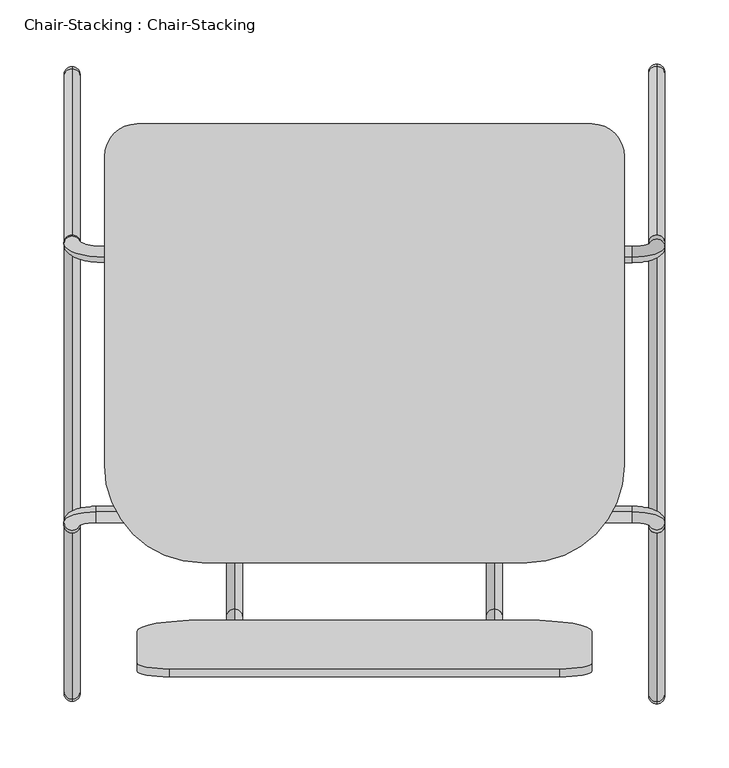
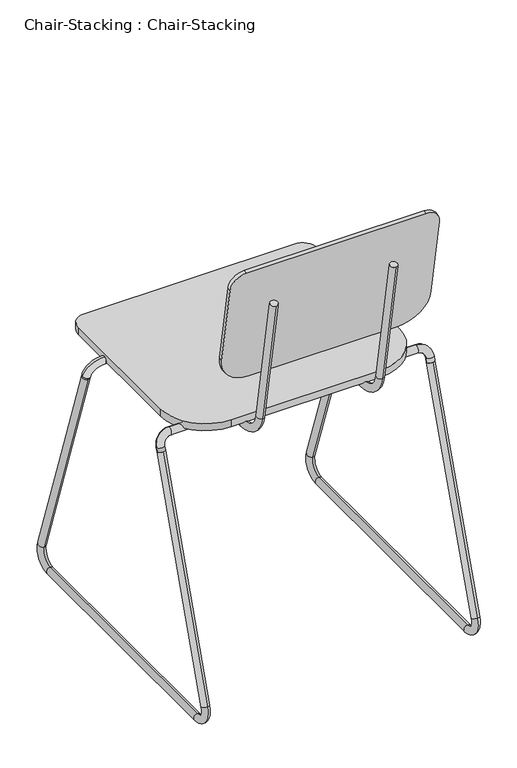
"""IFC4 building model written with IfcOpenShell, lengths in millimetres: furniture geometry, Chair-Stacking : Chair-Stacking."""

from ifc_helpers import new_model, si_unit, point, frame, frame_2d, origin, place, context, project, spatial, polyline, circle_curve, ellipse_curve, trimmed, segment, composite_curve, outline, extrude, source, transform, mapped, element, save
from ifc_brep_helpers import plane_surface, cylinder_surface, revolved_surface, advanced_brep


def chair_stacking_chair_stacking_74314eac(model_context):
    return source(origin(), model_context, "Body", "SolidModel", [
        advanced_brep(
        [(-280.6491803, 213.2656675, 431.8), (-280.6491803, 213.2656675, 444.5), (-280.6491803, -23.0277124, 431.8), (-280.6491803, -23.0277124, 444.5), (-280.6491803, -66.802417, 481.2313385), (-280.6491803, -79.3094755, 479.0260066), (-280.6491803, -119.2282049, 705.4163709), (-280.6491803, -106.7211464, 707.6217027)],
        [
            (0, 1, circle_curve(frame((-280.6491803, 213.2656675, 438.15), z_axis=(0.0, 1.0, 0.0), x_axis=(0.0, 0.0, 1.0)), 6.35)),
            (1, 0, circle_curve(frame((-280.6491803, 213.2656675, 438.15), z_axis=(0.0, 1.0, 0.0), x_axis=(0.0, 0.0, 1.0)), 6.35)),
            (0, 2),
            (2, 3, circle_curve(frame((-280.6491803, -23.0277124, 438.15), z_axis=(0.0, 1.0, 0.0), x_axis=(0.0, 0.0, 1.0)), 6.35)),
            (3, 1),
            (3, 2, circle_curve(frame((-280.6491803, -23.0277124, 438.15), z_axis=(0.0, 1.0, 0.0), x_axis=(0.0, 0.0, 1.0)), 6.35)),
            (4, 3, circle_curve(frame((-280.6491803, -23.0277124, 488.95), z_axis=(1.0, 0.0, 0.0), x_axis=(0.0, 0.0, -1.0)), 44.45)),
            (2, 5, circle_curve(frame((-280.6491803, -23.0277124, 488.95), z_axis=(-1.0, 0.0, 0.0), x_axis=(0.0, 0.0, -1.0)), 57.15)),
            (5, 4, circle_curve(frame((-280.6491803, -73.0559463, 480.1286726), z_axis=(0.0, 0.17364817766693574, -0.9848077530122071), x_axis=(0.0, 0.9848077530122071, 0.17364817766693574)), 6.35)),
            (4, 5, circle_curve(frame((-280.6491803, -73.0559463, 480.1286726), z_axis=(0.0, 0.17364817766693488, -0.9848077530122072), x_axis=(0.0, 0.9848077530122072, 0.17364817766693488)), 6.35)),
            (6, 7, circle_curve(frame((-280.6491803, -112.9746757, 706.5190368), z_axis=(0.0, -0.1736481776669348, 0.9848077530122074), x_axis=(0.0, 0.9848077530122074, 0.1736481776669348)), 6.35)),
            (7, 6, circle_curve(frame((-280.6491803, -112.9746757, 706.5190368), z_axis=(0.0, -0.1736481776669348, 0.9848077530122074), x_axis=(0.0, 0.9848077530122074, 0.1736481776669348)), 6.35)),
            (5, 6),
            (7, 4),
        ],
        [
            plane_surface(frame((-286.9991803, 213.2656675, 438.15), z_axis=(0.0, 1.0, 0.0), x_axis=(0.0, 0.0, -1.0))),
            cylinder_surface(frame((-280.6491803, 213.2656675, 438.15), z_axis=(0.0, 1.0, 0.0), x_axis=(0.0, 0.0, 1.0)), 6.35),
            revolved_surface(trimmed(ellipse_curve(frame((-280.6491803, -23.0277124, 438.15), z_axis=(0.0, 1.0, 0.0), x_axis=(0.0, 0.0, 1.0)), 6.35, 6.35), [point((-280.6491803, -23.0277124, 431.8))], [point((-280.6491803, -23.0277124, 444.5))], True, "CARTESIAN"), (-280.6491803, -23.0277124, 488.95), (-1.0, 0.0, 0.0)),
            revolved_surface(trimmed(ellipse_curve(frame((-280.6491803, -23.0277124, 438.15), z_axis=(0.0, 1.0, 0.0), x_axis=(0.0, 0.0, 1.0)), 6.35, 6.35), [point((-280.6491803, -23.0277124, 444.5))], [point((-280.6491803, -23.0277124, 431.8))], True, "CARTESIAN"), (-280.6491803, -23.0277124, 488.95), (-1.0, 0.0, 0.0)),
            plane_surface(frame((-280.6491803, -119.2282049, 705.4163709), z_axis=(0.0, -0.17364817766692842, 0.9848077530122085), x_axis=(1.0, 0.0, 0.0))),
            cylinder_surface(frame((-280.6491803, -73.0559463, 480.1286726), z_axis=(0.0, 0.1736481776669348, -0.9848077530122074), x_axis=(0.0, 0.9848077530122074, 0.1736481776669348)), 6.35),
        ],
        [
            (0, [[1, 2]]),
            (1, [[-1, 3, 4, 5]]),
            (1, [[-2, -5, 6, -3]]),
            (2, [[7, -4, 8, 9]]),
            (3, [[-8, -6, -7, 10]]),
            (4, [[11, 12]]),
            (5, [[-9, 13, -12, 14]]),
            (5, [[-10, -14, -11, -13]]),
        ],
    ),
        advanced_brep(
        [(-77.4491803, 213.2656675, 431.8), (-77.4491803, 213.2656675, 444.5), (-77.4491803, -23.0277124, 431.8), (-77.4491803, -23.0277124, 444.5), (-77.4491803, -66.802417, 481.2313385), (-77.4491803, -79.3094755, 479.0260066), (-77.4491803, -118.9339087, 703.7473341), (-77.4491803, -106.4268502, 705.9526659)],
        [
            (0, 1, circle_curve(frame((-77.4491803, 213.2656675, 438.15), z_axis=(0.0, 1.0, 0.0), x_axis=(0.0, 0.0, 1.0)), 6.35)),
            (1, 0, circle_curve(frame((-77.4491803, 213.2656675, 438.15), z_axis=(0.0, 1.0, 0.0), x_axis=(0.0, 0.0, 1.0)), 6.35)),
            (0, 2),
            (2, 3, circle_curve(frame((-77.4491803, -23.0277124, 438.15), z_axis=(0.0, 1.0, 0.0), x_axis=(0.0, 0.0, 1.0)), 6.35)),
            (3, 1),
            (3, 2, circle_curve(frame((-77.4491803, -23.0277124, 438.15), z_axis=(0.0, 1.0, 0.0), x_axis=(0.0, 0.0, 1.0)), 6.35)),
            (4, 3, circle_curve(frame((-77.4491803, -23.0277124, 488.95), z_axis=(1.0, 0.0, 0.0), x_axis=(0.0, 0.0, -1.0)), 44.45)),
            (2, 5, circle_curve(frame((-77.4491803, -23.0277124, 488.95), z_axis=(-1.0, 0.0, 0.0), x_axis=(0.0, 0.0, -1.0)), 57.15)),
            (5, 4, circle_curve(frame((-77.4491803, -73.0559463, 480.1286726), z_axis=(0.0, 0.1736481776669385, -0.9848077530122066), x_axis=(0.0, 0.9848077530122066, 0.1736481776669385)), 6.35)),
            (4, 5, circle_curve(frame((-77.4491803, -73.0559463, 480.1286726), z_axis=(0.0, 0.1736481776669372, -0.9848077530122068), x_axis=(0.0, 0.9848077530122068, 0.1736481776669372)), 6.35)),
            (6, 7, circle_curve(frame((-77.4491803, -112.6803794, 704.85), z_axis=(0.0, -0.17364817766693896, 0.9848077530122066), x_axis=(0.0, 0.9848077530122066, 0.17364817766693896)), 6.35)),
            (7, 6, circle_curve(frame((-77.4491803, -112.6803794, 704.85), z_axis=(0.0, -0.17364817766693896, 0.9848077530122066), x_axis=(0.0, 0.9848077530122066, 0.17364817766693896)), 6.35)),
            (5, 6),
            (7, 4),
        ],
        [
            plane_surface(frame((-83.7991803, 213.2656675, 438.15), z_axis=(0.0, 1.0, 0.0), x_axis=(0.0, 0.0, -1.0))),
            cylinder_surface(frame((-77.4491803, 213.2656675, 438.15), z_axis=(0.0, 1.0, 0.0), x_axis=(0.0, 0.0, 1.0)), 6.35),
            revolved_surface(trimmed(ellipse_curve(frame((-77.4491803, -23.0277124, 438.15), z_axis=(0.0, 1.0, 0.0), x_axis=(0.0, 0.0, 1.0)), 6.35, 6.35), [point((-77.4491803, -23.0277124, 431.8))], [point((-77.4491803, -23.0277124, 444.5))], True, "CARTESIAN"), (-77.4491803, -23.0277124, 488.95), (-1.0, 0.0, 0.0)),
            revolved_surface(trimmed(ellipse_curve(frame((-77.4491803, -23.0277124, 438.15), z_axis=(0.0, 1.0, 0.0), x_axis=(0.0, 0.0, 1.0)), 6.35, 6.35), [point((-77.4491803, -23.0277124, 444.5))], [point((-77.4491803, -23.0277124, 431.8))], True, "CARTESIAN"), (-77.4491803, -23.0277124, 488.95), (-1.0, 0.0, 0.0)),
            plane_surface(frame((-77.4491803, -118.9339087, 703.7473341), z_axis=(0.0, -0.1736481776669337, 0.9848077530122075), x_axis=(1.0, 0.0, 0.0))),
            cylinder_surface(frame((-77.4491803, -73.0559463, 480.1286726), z_axis=(0.0, 0.17364817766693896, -0.9848077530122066), x_axis=(0.0, 0.9848077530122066, 0.17364817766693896)), 6.35),
        ],
        [
            (0, [[1, 2]]),
            (1, [[-1, 3, 4, 5]]),
            (1, [[-2, -5, 6, -3]]),
            (2, [[7, -4, 8, 9]]),
            (3, [[-8, -6, -7, 10]]),
            (4, [[11, 12]]),
            (5, [[-9, 13, -12, 14]]),
            (5, [[-10, -14, -11, -13]]),
        ],
    ),
        extrude(outline(composite_curve([segment(trimmed(circle_curve(frame_2d((-1.2491803, 286.7314636)), 25.4), [point((-1.2491803, 312.1314636))], [point((24.1508197, 286.7314636))], False, "CARTESIAN"), True, "CONTINUOUS"), segment(polyline([(24.1508197, 286.7314636), (24.1508197, 45.4314636)]), True, "CONTINUOUS"), segment(trimmed(circle_curve(frame_2d((-52.0491803, 45.4314636)), 76.2), [point((24.1508197, 45.4314636))], [point((-52.0491803, -30.7685364))], False, "CARTESIAN"), True, "CONTINUOUS"), segment(polyline([(-52.0491803, -30.7685364), (-306.0491803, -30.7685364)]), True, "CONTINUOUS"), segment(trimmed(circle_curve(frame_2d((-306.0491803, 45.4314636)), 76.2), [point((-306.0491803, -30.7685364))], [point((-382.2491803, 45.4314636))], False, "CARTESIAN"), True, "CONTINUOUS"), segment(polyline([(-382.2491803, 45.4314636), (-382.2491803, 286.7314636)]), True, "CONTINUOUS"), segment(trimmed(circle_curve(frame_2d((-356.8491803, 286.7314636)), 25.4), [point((-382.2491803, 286.7314636))], [point((-356.8491803, 312.1314636))], False, "CARTESIAN"), True, "CONTINUOUS"), segment(polyline([(-356.8491803, 312.1314636), (-1.2491803, 312.1314636)]), True, "CONTINUOUS")], self_intersect=False)), frame((0.0, 0.0, 444.5), z_axis=(0.0, 0.0, 1.0), x_axis=(1.0, 0.0, 0.0)), (0.0, 0.0, 1.0), 12.7),
        extrude(outline(composite_curve([segment(polyline([(-304.8, 0.0), (0.0, 0.0)]), True, "CONTINUOUS"), segment(trimmed(circle_curve(frame_2d((0.0, -25.4)), 25.4), [point((0.0, 0.0))], [point((25.4, -25.4))], False, "CARTESIAN"), True, "CONTINUOUS"), segment(polyline([(25.4, -25.4), (25.4, -168.3013626)]), True, "CONTINUOUS"), segment(trimmed(circle_curve(frame_2d((-25.4, -168.3013626)), 50.8), [point((25.4, -168.3013626))], [point((-25.4, -219.1013626))], False, "CARTESIAN"), True, "CONTINUOUS"), segment(polyline([(-25.4, -219.1013626), (-279.4, -219.1013626)]), True, "CONTINUOUS"), segment(trimmed(circle_curve(frame_2d((-279.4, -168.3013626)), 50.8), [point((-279.4, -219.1013626))], [point((-330.2, -168.3013626))], False, "CARTESIAN"), True, "CONTINUOUS"), segment(polyline([(-330.2, -168.3013626), (-330.2, -25.4)]), True, "CONTINUOUS"), segment(trimmed(circle_curve(frame_2d((-304.8, -25.4)), 25.4), [point((-330.2, -25.4))], [point((-304.8, 0.0))], False, "CARTESIAN"), True, "CONTINUOUS")], self_intersect=False)), frame((-331.4491803, -119.9531376, 782.6640535), z_axis=(0.0, 0.9848077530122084, 0.17364817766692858), x_axis=(-1.0, 0.0, 0.0)), (0.0, 0.0, 1.0), 6.35),
        advanced_brep(
        [(55.9008197, 219.2327758, 419.1211728), (43.2008197, 219.2327758, 419.1211728), (55.9008197, 216.3017292, 427.6700586), (43.2008197, 216.3017292, 427.6700586), (30.5008197, 212.1828103, 439.6835721), (30.5008197, 208.0638914, 451.6970857), (-382.2491803, 208.0638914, 451.6970857), (-382.2491803, 212.1828103, 439.6835721), (-401.2991803, 218.3611887, 421.6633019), (-413.9991803, 218.3611887, 421.6633019), (-413.9991803, 219.2424531, 419.0929473), (-401.2991803, 219.2424531, 419.0929473)],
        [
            (0, 1, circle_curve(frame((49.5508197, 219.2327758, 419.1211728), z_axis=(0.0, 0.32432432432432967, -0.9459459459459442), x_axis=(-1.0, 0.0, 0.0)), 6.35)),
            (1, 0, circle_curve(frame((49.5508197, 219.2327758, 419.1211728), z_axis=(0.0, 0.32432432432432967, -0.9459459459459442), x_axis=(-1.0, 0.0, 0.0)), 6.35)),
            (0, 2),
            (2, 3, circle_curve(frame((49.5508197, 216.3017292, 427.6700586), z_axis=(0.0, 0.32432432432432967, -0.9459459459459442), x_axis=(-1.0, 0.0, 0.0)), 6.35)),
            (3, 1),
            (3, 2, circle_curve(frame((49.5508197, 216.3017292, 427.6700586), z_axis=(0.0, 0.32432432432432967, -0.9459459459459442), x_axis=(-1.0, 0.0, 0.0)), 6.35)),
            (4, 3, circle_curve(frame((30.5008197, 216.3017292, 427.6700586), z_axis=(0.0, 0.9459459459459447, 0.3243243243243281), x_axis=(1.0, 0.0, 0.0)), 12.7)),
            (2, 5, circle_curve(frame((30.5008197, 216.3017292, 427.6700586), z_axis=(0.0, -0.9459459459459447, -0.3243243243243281), x_axis=(1.0, 0.0, 0.0)), 25.4)),
            (5, 4, circle_curve(frame((30.5008197, 210.1233509, 445.6903289), z_axis=(1.0, 0.0, 0.0), x_axis=(0.0, 0.32432432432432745, -0.9459459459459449)), 6.35)),
            (4, 5, circle_curve(frame((30.5008197, 210.1233509, 445.6903289), z_axis=(1.0, 0.0, 0.0), x_axis=(0.0, 0.32432432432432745, -0.9459459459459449)), 6.35)),
            (5, 6),
            (6, 7, circle_curve(frame((-382.2491803, 210.1233509, 445.6903289), z_axis=(1.0, 0.0, 0.0), x_axis=(0.0, 0.32432432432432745, -0.9459459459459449)), 6.35)),
            (7, 4),
            (7, 6, circle_curve(frame((-382.2491803, 210.1233509, 445.6903289), z_axis=(1.0, 0.0, 0.0), x_axis=(0.0, 0.32432432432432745, -0.9459459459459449)), 6.35)),
            (8, 7, circle_curve(frame((-382.2491803, 218.3611887, 421.6633019), z_axis=(0.0, 0.9459459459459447, 0.3243243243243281), x_axis=(0.0, -0.3243243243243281, 0.9459459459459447)), 19.05)),
            (6, 9, circle_curve(frame((-382.2491803, 218.3611887, 421.6633019), z_axis=(0.0, -0.9459459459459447, -0.3243243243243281), x_axis=(0.0, -0.3243243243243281, 0.9459459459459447)), 31.75)),
            (9, 8, circle_curve(frame((-407.6491803, 218.3611887, 421.6633019), z_axis=(0.0, -0.324324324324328, 0.9459459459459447), x_axis=(1.0000000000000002, 0.0, 0.0)), 6.35)),
            (8, 9, circle_curve(frame((-407.6491803, 218.3611887, 421.6633019), z_axis=(0.0, -0.324324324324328, 0.9459459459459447), x_axis=(1.0000000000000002, 0.0, 0.0)), 6.35)),
            (10, 11, circle_curve(frame((-407.6491803, 219.2424531, 419.0929473), z_axis=(0.0, 0.32432432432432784, -0.9459459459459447), x_axis=(1.0, 0.0, 0.0)), 6.35)),
            (11, 10, circle_curve(frame((-407.6491803, 219.2424531, 419.0929473), z_axis=(0.0, 0.32432432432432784, -0.9459459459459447), x_axis=(1.0, 0.0, 0.0)), 6.35)),
            (9, 10),
            (11, 8),
        ],
        [
            plane_surface(frame((49.5508197, 213.226019, 417.0617133), z_axis=(0.0, 0.3243243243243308, -0.9459459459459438), x_axis=(1.0, 0.0, 0.0))),
            cylinder_surface(frame((49.5508197, 219.2327758, 419.1211728), z_axis=(0.0, 0.32432432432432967, -0.9459459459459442), x_axis=(-1.0, 0.0, 0.0)), 6.35),
            revolved_surface(trimmed(ellipse_curve(frame((49.5508197, 216.3017292, 427.6700586), z_axis=(0.0, 0.32432432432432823, -0.9459459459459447), x_axis=(-1.0, 0.0, 0.0)), 6.35, 6.35), [point((55.9008197, 216.3017292, 427.6700586))], [point((43.2008197, 216.3017292, 427.6700586))], True, "CARTESIAN"), (30.5008197, 216.3017292, 427.6700586), (0.0, -0.9459459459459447, -0.3243243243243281)),
            revolved_surface(trimmed(ellipse_curve(frame((49.5508197, 216.3017292, 427.6700586), z_axis=(0.0, 0.32432432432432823, -0.9459459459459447), x_axis=(-1.0, 0.0, 0.0)), 6.35, 6.35), [point((43.2008197, 216.3017292, 427.6700586))], [point((55.9008197, 216.3017292, 427.6700586))], True, "CARTESIAN"), (30.5008197, 216.3017292, 427.6700586), (0.0, -0.9459459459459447, -0.3243243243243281)),
            cylinder_surface(frame((30.5008197, 210.1233509, 445.6903289), z_axis=(1.0000000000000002, 0.0, 0.0), x_axis=(0.0, 0.32432432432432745, -0.9459459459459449)), 6.35),
            revolved_surface(trimmed(ellipse_curve(frame((-382.2491803, 210.1233509, 445.6903289), z_axis=(1.0000000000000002, 0.0, 0.0), x_axis=(0.0, 0.3243243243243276, -0.9459459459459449)), 6.35, 6.35), [point((-382.2491803, 208.0638914, 451.6970857))], [point((-382.2491803, 212.1828103, 439.6835721))], True, "CARTESIAN"), (-382.2491803, 218.3611887, 421.6633019), (0.0, -0.9459459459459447, -0.3243243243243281)),
            revolved_surface(trimmed(ellipse_curve(frame((-382.2491803, 210.1233509, 445.6903289), z_axis=(1.0000000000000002, 0.0, 0.0), x_axis=(0.0, 0.3243243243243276, -0.9459459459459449)), 6.35, 6.35), [point((-382.2491803, 212.1828103, 439.6835721))], [point((-382.2491803, 208.0638914, 451.6970857))], True, "CARTESIAN"), (-382.2491803, 218.3611887, 421.6633019), (0.0, -0.9459459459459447, -0.3243243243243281)),
            plane_surface(frame((-407.6491803, 225.2492099, 421.1524068), z_axis=(0.0, 0.32432432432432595, -0.9459459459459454), x_axis=(1.0, 0.0, 0.0))),
            cylinder_surface(frame((-407.6491803, 218.3611887, 421.6633019), z_axis=(0.0, -0.32432432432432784, 0.9459459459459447), x_axis=(1.0, 0.0, 0.0)), 6.35),
        ],
        [
            (0, [[1, 2]]),
            (1, [[-1, 3, 4, 5]]),
            (1, [[-2, -5, 6, -3]]),
            (2, [[7, -4, 8, 9]]),
            (3, [[-8, -6, -7, 10]]),
            (4, [[-9, 11, 12, 13]]),
            (4, [[-10, -13, 14, -11]]),
            (5, [[15, -12, 16, 17]]),
            (6, [[-16, -14, -15, 18]]),
            (7, [[19, 20]]),
            (8, [[-17, 21, -20, 22]]),
            (8, [[-18, -22, -19, -21]]),
        ],
    ),
        advanced_brep(
        [(55.9008197, -1.3812406, 419.0879461), (43.2008197, -1.3812406, 419.0879461), (55.9008197, 0.7944914, 425.4338312), (43.2008197, 0.7944914, 425.4338312), (30.5008197, 4.9134104, 437.4473447), (30.5008197, 9.0323293, 449.4608582), (-388.5991803, 9.0323293, 449.4608582), (-388.5991803, 4.9134104, 437.4473447), (-401.2991803, 0.7944914, 425.4338312), (-413.9991803, 0.7944914, 425.4338312), (-413.9991803, -1.3997864, 419.0338542), (-401.2991803, -1.3997864, 419.0338542)],
        [
            (0, 1, circle_curve(frame((49.5508197, -1.3812406, 419.0879461), z_axis=(0.0, -0.3243243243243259, -0.9459459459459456), x_axis=(-1.0, 0.0, 0.0)), 6.35)),
            (1, 0, circle_curve(frame((49.5508197, -1.3812406, 419.0879461), z_axis=(0.0, -0.3243243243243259, -0.9459459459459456), x_axis=(-1.0, 0.0, 0.0)), 6.35)),
            (0, 2),
            (2, 3, circle_curve(frame((49.5508197, 0.7944914, 425.4338312), z_axis=(0.0, -0.3243243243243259, -0.9459459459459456), x_axis=(-1.0, 0.0, 0.0)), 6.35)),
            (3, 1),
            (3, 2, circle_curve(frame((49.5508197, 0.7944914, 425.4338312), z_axis=(0.0, -0.3243243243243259, -0.9459459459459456), x_axis=(-1.0, 0.0, 0.0)), 6.35)),
            (4, 3, circle_curve(frame((30.5008197, 0.7944914, 425.4338312), z_axis=(0.0, 0.9459459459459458, -0.3243243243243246), x_axis=(1.0, 0.0, 0.0)), 12.7)),
            (2, 5, circle_curve(frame((30.5008197, 0.7944914, 425.4338312), z_axis=(0.0, -0.9459459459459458, 0.3243243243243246), x_axis=(1.0, 0.0, 0.0)), 25.4)),
            (5, 4, circle_curve(frame((30.5008197, 6.9728698, 443.4541014), z_axis=(1.0, 0.0, 0.0), x_axis=(0.0, -0.3243243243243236, -0.9459459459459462)), 6.35)),
            (4, 5, circle_curve(frame((30.5008197, 6.9728698, 443.4541014), z_axis=(1.0, 0.0, 0.0), x_axis=(0.0, -0.3243243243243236, -0.9459459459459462)), 6.35)),
            (5, 6),
            (6, 7, circle_curve(frame((-388.5991803, 6.9728698, 443.4541014), z_axis=(1.0, 0.0, 0.0), x_axis=(0.0, -0.3243243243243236, -0.9459459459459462)), 6.35)),
            (7, 4),
            (7, 6, circle_curve(frame((-388.5991803, 6.9728698, 443.4541014), z_axis=(1.0, 0.0, 0.0), x_axis=(0.0, -0.3243243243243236, -0.9459459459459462)), 6.35)),
            (8, 7, circle_curve(frame((-388.5991803, 0.7944914, 425.4338312), z_axis=(0.0, 0.9459459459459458, -0.3243243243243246), x_axis=(0.0, 0.3243243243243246, 0.9459459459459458)), 12.7)),
            (6, 9, circle_curve(frame((-388.5991803, 0.7944914, 425.4338312), z_axis=(0.0, -0.9459459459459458, 0.3243243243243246), x_axis=(0.0, 0.3243243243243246, 0.9459459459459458)), 25.4)),
            (9, 8, circle_curve(frame((-407.6491803, 0.7944914, 425.4338312), z_axis=(0.0, 0.3243243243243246, 0.9459459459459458), x_axis=(1.0, 0.0, 0.0)), 6.35)),
            (8, 9, circle_curve(frame((-407.6491803, 0.7944914, 425.4338312), z_axis=(0.0, 0.3243243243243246, 0.9459459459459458), x_axis=(1.0, 0.0, 0.0)), 6.35)),
            (10, 11, circle_curve(frame((-407.6491803, -1.3997864, 419.0338542), z_axis=(0.0, -0.32432432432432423, -0.9459459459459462), x_axis=(1.0, 0.0, 0.0)), 6.35)),
            (11, 10, circle_curve(frame((-407.6491803, -1.3997864, 419.0338542), z_axis=(0.0, -0.32432432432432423, -0.9459459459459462), x_axis=(1.0, 0.0, 0.0)), 6.35)),
            (9, 10),
            (11, 8),
        ],
        [
            plane_surface(frame((49.5508197, -7.3879973, 421.1474055), z_axis=(0.0, -0.32432432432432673, -0.9459459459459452), x_axis=(1.0, 0.0, 0.0))),
            cylinder_surface(frame((49.5508197, -1.3812406, 419.0879461), z_axis=(0.0, -0.32432432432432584, -0.9459459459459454), x_axis=(-1.0, 0.0, 0.0)), 6.35),
            revolved_surface(trimmed(ellipse_curve(frame((49.5508197, 0.7944914, 425.4338312), z_axis=(0.0, -0.3243243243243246, -0.9459459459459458), x_axis=(-1.0, 0.0, 0.0)), 6.35, 6.35), [point((55.9008197, 0.7944914, 425.4338312))], [point((43.2008197, 0.7944914, 425.4338312))], True, "CARTESIAN"), (30.5008197, 0.7944914, 425.4338312), (0.0, -0.9459459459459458, 0.3243243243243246)),
            revolved_surface(trimmed(ellipse_curve(frame((49.5508197, 0.7944914, 425.4338312), z_axis=(0.0, -0.3243243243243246, -0.9459459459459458), x_axis=(-1.0, 0.0, 0.0)), 6.35, 6.35), [point((43.2008197, 0.7944914, 425.4338312))], [point((55.9008197, 0.7944914, 425.4338312))], True, "CARTESIAN"), (30.5008197, 0.7944914, 425.4338312), (0.0, -0.9459459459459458, 0.3243243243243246)),
            cylinder_surface(frame((30.5008197, 6.9728698, 443.4541014), z_axis=(1.0, 0.0, 0.0), x_axis=(0.0, -0.3243243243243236, -0.9459459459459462)), 6.35),
            revolved_surface(trimmed(ellipse_curve(frame((-388.5991803, 6.9728698, 443.4541014), z_axis=(1.0, 0.0, 0.0), x_axis=(0.0, -0.3243243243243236, -0.9459459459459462)), 6.35, 6.35), [point((-388.5991803, 9.0323293, 449.4608582))], [point((-388.5991803, 4.9134104, 437.4473447))], True, "CARTESIAN"), (-388.5991803, 0.7944914, 425.4338312), (0.0, -0.9459459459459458, 0.3243243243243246)),
            revolved_surface(trimmed(ellipse_curve(frame((-388.5991803, 6.9728698, 443.4541014), z_axis=(1.0, 0.0, 0.0), x_axis=(0.0, -0.3243243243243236, -0.9459459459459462)), 6.35, 6.35), [point((-388.5991803, 4.9134104, 437.4473447))], [point((-388.5991803, 9.0323293, 449.4608582))], True, "CARTESIAN"), (-388.5991803, 0.7944914, 425.4338312), (0.0, -0.9459459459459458, 0.3243243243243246)),
            plane_surface(frame((-407.6491803, 4.6069704, 416.9743947), z_axis=(0.0, -0.32432432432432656, -0.9459459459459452), x_axis=(1.0, 0.0, 0.0))),
            cylinder_surface(frame((-407.6491803, 0.7944914, 425.4338312), z_axis=(0.0, 0.3243243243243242, 0.9459459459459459), x_axis=(1.0, 0.0, 0.0)), 6.35),
        ],
        [
            (0, [[1, 2]]),
            (1, [[-1, 3, 4, 5]]),
            (1, [[-2, -5, 6, -3]]),
            (2, [[7, -4, 8, 9]]),
            (3, [[-8, -6, -7, 10]]),
            (4, [[-9, 11, 12, 13]]),
            (4, [[-10, -13, 14, -11]]),
            (5, [[15, -12, 16, 17]]),
            (6, [[-16, -14, -15, 18]]),
            (7, [[19, 20]]),
            (8, [[-17, 21, -20, 22]]),
            (8, [[-18, -22, -19, -21]]),
        ],
    ),
        advanced_brep(
        [(-407.6491803, 225.2492099, 421.1524068), (-407.6491803, 213.2356963, 417.0334879), (-407.6491803, 355.2281045, 42.0472973), (-407.6491803, 343.214591, 37.9283784), (-407.6491803, 325.1943208, 12.7), (-407.6491803, 325.1943208, 0.0), (-407.6491803, -107.3313935, 0.0), (-407.6491803, -107.3313935, 12.7), (-407.6491803, -125.3516638, 37.9283784), (-407.6491803, -137.3651773, 42.0472973), (-407.6491803, -7.4065431, 421.0933136), (-407.6491803, 4.6069704, 416.9743947)],
        [
            (0, 1, circle_curve(frame((-407.6491803, 219.2424531, 419.0929473), z_axis=(0.0, -0.3243243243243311, 0.9459459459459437), x_axis=(0.0, -0.9459459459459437, -0.3243243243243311)), 6.35)),
            (1, 0, circle_curve(frame((-407.6491803, 219.2424531, 419.0929473), z_axis=(0.0, -0.3243243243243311, 0.9459459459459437), x_axis=(0.0, -0.9459459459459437, -0.3243243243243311)), 6.35)),
            (0, 2),
            (2, 3, circle_curve(frame((-407.6491803, 349.2213478, 39.9878378), z_axis=(0.0, -0.3243243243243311, 0.9459459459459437), x_axis=(0.0, -0.9459459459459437, -0.3243243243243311)), 6.35)),
            (3, 1),
            (3, 2, circle_curve(frame((-407.6491803, 349.2213478, 39.9878378), z_axis=(0.0, -0.3243243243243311, 0.9459459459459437), x_axis=(0.0, -0.9459459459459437, -0.3243243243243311)), 6.35)),
            (4, 3, circle_curve(frame((-407.6491803, 325.1943208, 31.75), z_axis=(1.0, 0.0, 0.0), x_axis=(0.0, 0.9459459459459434, 0.3243243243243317)), 19.05)),
            (2, 5, circle_curve(frame((-407.6491803, 325.1943208, 31.75), z_axis=(-1.0, 0.0, 0.0), x_axis=(0.0, 0.9459459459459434, 0.3243243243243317)), 31.75)),
            (5, 4, circle_curve(frame((-407.6491803, 325.1943208, 6.35), z_axis=(0.0, 1.0, 0.0), x_axis=(0.0, 0.0, 1.0)), 6.35)),
            (4, 5, circle_curve(frame((-407.6491803, 325.1943208, 6.35), z_axis=(0.0, 0.9999999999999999, 0.0), x_axis=(0.0, 0.0, 0.9999999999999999)), 6.35)),
            (5, 6),
            (6, 7, circle_curve(frame((-407.6491803, -107.3313935, 6.35), z_axis=(0.0, 1.0, 0.0), x_axis=(0.0, 0.0, 1.0)), 6.35)),
            (7, 4),
            (7, 6, circle_curve(frame((-407.6491803, -107.3313935, 6.35), z_axis=(0.0, 1.0, 0.0), x_axis=(0.0, 0.0, 1.0)), 6.35)),
            (8, 7, circle_curve(frame((-407.6491803, -107.3313935, 31.75), z_axis=(1.0, 0.0, 0.0), x_axis=(0.0, 0.0, -1.0)), 19.05)),
            (6, 9, circle_curve(frame((-407.6491803, -107.3313935, 31.75), z_axis=(-1.0, 0.0, 0.0), x_axis=(0.0, 0.0, -1.0)), 31.75)),
            (9, 8, circle_curve(frame((-407.6491803, -131.3584206, 39.9878378), z_axis=(0.0, -0.32432432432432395, -0.945945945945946), x_axis=(0.0, 0.945945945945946, -0.32432432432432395)), 6.35)),
            (8, 9, circle_curve(frame((-407.6491803, -131.3584206, 39.9878378), z_axis=(0.0, -0.3243243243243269, -0.945945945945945), x_axis=(0.0, 0.945945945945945, -0.3243243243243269)), 6.35)),
            (10, 11, circle_curve(frame((-407.6491803, -1.3997864, 419.0338542), z_axis=(0.0, 0.3243243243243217, 0.9459459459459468), x_axis=(0.0, 0.9459459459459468, -0.3243243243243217)), 6.35)),
            (11, 10, circle_curve(frame((-407.6491803, -1.3997864, 419.0338542), z_axis=(0.0, 0.3243243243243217, 0.9459459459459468), x_axis=(0.0, 0.9459459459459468, -0.3243243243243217)), 6.35)),
            (9, 10),
            (11, 8),
        ],
        [
            plane_surface(frame((-407.6491803, 225.2492099, 421.1524068), z_axis=(0.0, -0.32432432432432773, 0.9459459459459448), x_axis=(1.0, 0.0, 0.0))),
            cylinder_surface(frame((-407.6491803, 219.2424531, 419.0929473), z_axis=(0.0, -0.3243243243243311, 0.9459459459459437), x_axis=(0.0, -0.9459459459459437, -0.3243243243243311)), 6.35),
            revolved_surface(trimmed(ellipse_curve(frame((-407.6491803, 349.2213478, 39.9878378), z_axis=(0.0, -0.3243243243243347, 0.9459459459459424), x_axis=(0.0, -0.9459459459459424, -0.3243243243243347)), 6.35, 6.35), [point((-407.6491803, 355.2281045, 42.0472973))], [point((-407.6491803, 343.214591, 37.9283784))], True, "CARTESIAN"), (-407.6491803, 325.1943208, 31.75), (-1.0, 0.0, 0.0)),
            revolved_surface(trimmed(ellipse_curve(frame((-407.6491803, 349.2213478, 39.9878378), z_axis=(0.0, -0.3243243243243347, 0.9459459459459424), x_axis=(0.0, -0.9459459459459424, -0.3243243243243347)), 6.35, 6.35), [point((-407.6491803, 343.214591, 37.9283784))], [point((-407.6491803, 355.2281045, 42.0472973))], True, "CARTESIAN"), (-407.6491803, 325.1943208, 31.75), (-1.0, 0.0, 0.0)),
            cylinder_surface(frame((-407.6491803, 325.1943208, 6.35), z_axis=(0.0, 1.0, 0.0), x_axis=(0.0, 0.0, 1.0)), 6.35),
            revolved_surface(trimmed(ellipse_curve(frame((-407.6491803, -107.3313935, 6.35), z_axis=(0.0, 1.0, 0.0), x_axis=(0.0, 0.0, 1.0)), 6.35, 6.35), [point((-407.6491803, -107.3313935, 0.0))], [point((-407.6491803, -107.3313935, 12.7))], True, "CARTESIAN"), (-407.6491803, -107.3313935, 31.75), (-1.0, 0.0, 0.0)),
            revolved_surface(trimmed(ellipse_curve(frame((-407.6491803, -107.3313935, 6.35), z_axis=(0.0, 1.0, 0.0), x_axis=(0.0, 0.0, 1.0)), 6.35, 6.35), [point((-407.6491803, -107.3313935, 12.7))], [point((-407.6491803, -107.3313935, 0.0))], True, "CARTESIAN"), (-407.6491803, -107.3313935, 31.75), (-1.0, 0.0, 0.0)),
            plane_surface(frame((-407.6491803, -7.4065431, 421.0933136), z_axis=(0.0, 0.324324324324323, 0.9459459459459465), x_axis=(1.0, 0.0, 0.0))),
            cylinder_surface(frame((-407.6491803, -131.3584206, 39.9878378), z_axis=(0.0, -0.3243243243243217, -0.9459459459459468), x_axis=(0.0, 0.9459459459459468, -0.3243243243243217)), 6.35),
        ],
        [
            (0, [[1, 2]]),
            (1, [[-1, 3, 4, 5]]),
            (1, [[-2, -5, 6, -3]]),
            (2, [[7, -4, 8, 9]]),
            (3, [[-8, -6, -7, 10]]),
            (4, [[-9, 11, 12, 13]]),
            (4, [[-10, -13, 14, -11]]),
            (5, [[15, -12, 16, 17]]),
            (6, [[-16, -14, -15, 18]]),
            (7, [[19, 20]]),
            (8, [[-17, 21, -20, 22]]),
            (8, [[-18, -22, -19, -21]]),
        ],
    ),
        advanced_brep(
        [(49.5508197, 225.2597598, 421.1875673), (49.5508197, 213.2656675, 417.0124327), (49.5508197, 357.1892841, 42.1878365), (49.5508197, 345.1951918, 38.0127019), (49.5508197, 327.2040533, 12.7), (49.5508197, 327.2040533, 0.0), (49.5508197, -109.3411268, 0.0), (49.5508197, -109.3411268, 12.7), (49.5508197, -127.3337908, 38.0083179), (49.5508197, -139.3289001, 42.1805298), (49.5508197, -7.5008737, 421.186106), (49.5508197, 4.4942357, 417.013894)],
        [
            (0, 1, circle_curve(frame((49.5508197, 219.2627136, 419.1), z_axis=(0.0, -0.3287507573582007, 0.9444167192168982), x_axis=(0.0, -0.9444167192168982, -0.3287507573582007)), 6.35)),
            (1, 0, circle_curve(frame((49.5508197, 219.2627136, 419.1), z_axis=(0.0, -0.3287507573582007, 0.9444167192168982), x_axis=(0.0, -0.9444167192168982, -0.3287507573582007)), 6.35)),
            (0, 2),
            (2, 3, circle_curve(frame((49.5508197, 351.1922379, 40.1002692), z_axis=(0.0, -0.3287507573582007, 0.9444167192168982), x_axis=(0.0, -0.9444167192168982, -0.3287507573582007)), 6.35)),
            (3, 1),
            (3, 2, circle_curve(frame((49.5508197, 351.1922379, 40.1002692), z_axis=(0.0, -0.3287507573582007, 0.9444167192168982), x_axis=(0.0, -0.9444167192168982, -0.3287507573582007)), 6.35)),
            (4, 3, circle_curve(frame((49.5508197, 327.2040533, 31.75), z_axis=(1.0, 0.0, 0.0), x_axis=(0.0, 0.9444167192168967, 0.3287507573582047)), 19.05)),
            (2, 5, circle_curve(frame((49.5508197, 327.2040533, 31.75), z_axis=(-1.0, 0.0, 0.0), x_axis=(0.0, 0.9444167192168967, 0.3287507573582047)), 31.75)),
            (5, 4, circle_curve(frame((49.5508197, 327.2040533, 6.35), z_axis=(0.0, 1.0, 0.0), x_axis=(0.0, 0.0, 1.0)), 6.35)),
            (4, 5, circle_curve(frame((49.5508197, 327.2040533, 6.35), z_axis=(0.0, 1.0, 0.0), x_axis=(0.0, 0.0, 1.0)), 6.35)),
            (5, 6),
            (6, 7, circle_curve(frame((49.5508197, -109.3411268, 6.35), z_axis=(0.0, 1.0, 0.0), x_axis=(0.0, 0.0, 1.0)), 6.35)),
            (7, 4),
            (7, 6, circle_curve(frame((49.5508197, -109.3411268, 6.35), z_axis=(0.0, 1.0, 0.0), x_axis=(0.0, 0.0, 1.0)), 6.35)),
            (8, 7, circle_curve(frame((49.5508197, -109.3411268, 31.75), z_axis=(1.0, 0.0, 0.0), x_axis=(0.0, 0.0, -1.0)), 19.05)),
            (6, 9, circle_curve(frame((49.5508197, -109.3411268, 31.75), z_axis=(-1.0, 0.0, 0.0), x_axis=(0.0, 0.0, -1.0)), 31.75)),
            (9, 8, circle_curve(frame((49.5508197, -133.3313455, 40.0944239), z_axis=(0.0, -0.3285206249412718, -0.9444967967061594), x_axis=(0.0, 0.9444967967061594, -0.3285206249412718)), 6.35)),
            (8, 9, circle_curve(frame((49.5508197, -133.3313455, 40.0944239), z_axis=(0.0, -0.328520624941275, -0.9444967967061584), x_axis=(0.0, 0.9444967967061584, -0.328520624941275)), 6.35)),
            (10, 11, circle_curve(frame((49.5508197, -1.503319, 419.1), z_axis=(0.0, 0.3285206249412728, 0.9444967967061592), x_axis=(0.0, 0.9444967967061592, -0.3285206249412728)), 6.35)),
            (11, 10, circle_curve(frame((49.5508197, -1.503319, 419.1), z_axis=(0.0, 0.3285206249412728, 0.9444967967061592), x_axis=(0.0, 0.9444967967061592, -0.3285206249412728)), 6.35)),
            (9, 10),
            (11, 8),
        ],
        [
            plane_surface(frame((49.5508197, 225.2597598, 421.1875673), z_axis=(0.0, -0.3287507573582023, 0.9444167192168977), x_axis=(1.0, 0.0, 0.0))),
            cylinder_surface(frame((49.5508197, 219.2627136, 419.1), z_axis=(0.0, -0.3287507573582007, 0.9444167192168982), x_axis=(0.0, -0.9444167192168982, -0.3287507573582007)), 6.35),
            revolved_surface(trimmed(ellipse_curve(frame((49.5508197, 351.1922379, 40.1002692), z_axis=(0.0, -0.32875075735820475, 0.9444167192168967), x_axis=(0.0, -0.9444167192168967, -0.32875075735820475)), 6.35, 6.35), [point((49.5508197, 357.1892841, 42.1878365))], [point((49.5508197, 345.1951918, 38.0127019))], True, "CARTESIAN"), (49.5508197, 327.2040533, 31.75), (-1.0, 0.0, 0.0)),
            revolved_surface(trimmed(ellipse_curve(frame((49.5508197, 351.1922379, 40.1002692), z_axis=(0.0, -0.32875075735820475, 0.9444167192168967), x_axis=(0.0, -0.9444167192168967, -0.32875075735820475)), 6.35, 6.35), [point((49.5508197, 345.1951918, 38.0127019))], [point((49.5508197, 357.1892841, 42.1878365))], True, "CARTESIAN"), (49.5508197, 327.2040533, 31.75), (-1.0, 0.0, 0.0)),
            cylinder_surface(frame((49.5508197, 327.2040533, 6.35), z_axis=(0.0, 1.0, 0.0), x_axis=(0.0, 0.0, 1.0)), 6.35),
            revolved_surface(trimmed(ellipse_curve(frame((49.5508197, -109.3411268, 6.35), z_axis=(0.0, 1.0, 0.0), x_axis=(0.0, 0.0, 1.0)), 6.35, 6.35), [point((49.5508197, -109.3411268, 0.0))], [point((49.5508197, -109.3411268, 12.7))], True, "CARTESIAN"), (49.5508197, -109.3411268, 31.75), (-1.0, 0.0, 0.0)),
            revolved_surface(trimmed(ellipse_curve(frame((49.5508197, -109.3411268, 6.35), z_axis=(0.0, 1.0, 0.0), x_axis=(0.0, 0.0, 1.0)), 6.35, 6.35), [point((49.5508197, -109.3411268, 12.7))], [point((49.5508197, -109.3411268, 0.0))], True, "CARTESIAN"), (49.5508197, -109.3411268, 31.75), (-1.0, 0.0, 0.0)),
            plane_surface(frame((49.5508197, -7.5008737, 421.186106), z_axis=(0.0, 0.3285206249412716, 0.9444967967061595), x_axis=(1.0, 0.0, 0.0))),
            cylinder_surface(frame((49.5508197, -133.3313455, 40.0944239), z_axis=(0.0, -0.3285206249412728, -0.9444967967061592), x_axis=(0.0, 0.9444967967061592, -0.3285206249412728)), 6.35),
        ],
        [
            (0, [[1, 2]]),
            (1, [[-1, 3, 4, 5]]),
            (1, [[-2, -5, 6, -3]]),
            (2, [[7, -4, 8, 9]]),
            (3, [[-8, -6, -7, 10]]),
            (4, [[-9, 11, 12, 13]]),
            (4, [[-10, -13, 14, -11]]),
            (5, [[15, -12, 16, 17]]),
            (6, [[-16, -14, -15, 18]]),
            (7, [[19, 20]]),
            (8, [[-17, 21, -20, 22]]),
            (8, [[-18, -22, -19, -21]]),
        ],
    ),
    ])


if __name__ == "__main__":
    model = new_model("IFC4")
    model_context = context("Model", 3, world=origin())
    ifc_project = project(units=[si_unit("LENGTHUNIT", "METRE", prefix="MILLI")], contexts=[model_context])
    site = spatial("IfcSite", under=ifc_project)
    building = spatial("IfcBuilding", under=site)
    placement = place(None, origin())
    chair_stacking_chair_stacking_shape = chair_stacking_chair_stacking_74314eac(model_context)
    element("IfcFurniture", 1, ObjectType="Chair-Stacking : Chair-Stacking", at=placement, inside=building, context=model_context, shape_type="MappedRepresentation", body=[
        mapped(chair_stacking_chair_stacking_shape, transform((0.0, 0.0, 0.0), x_axis=(1.0, 0.0, 0.0), y_axis=(0.0, 1.0, 0.0), z_axis=(0.0, 0.0, 1.0))),
    ])
    save(model, "model.ifc")
